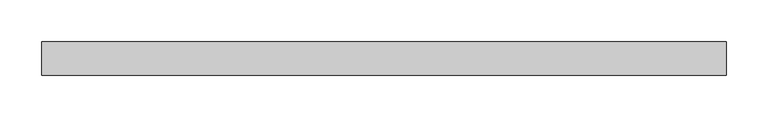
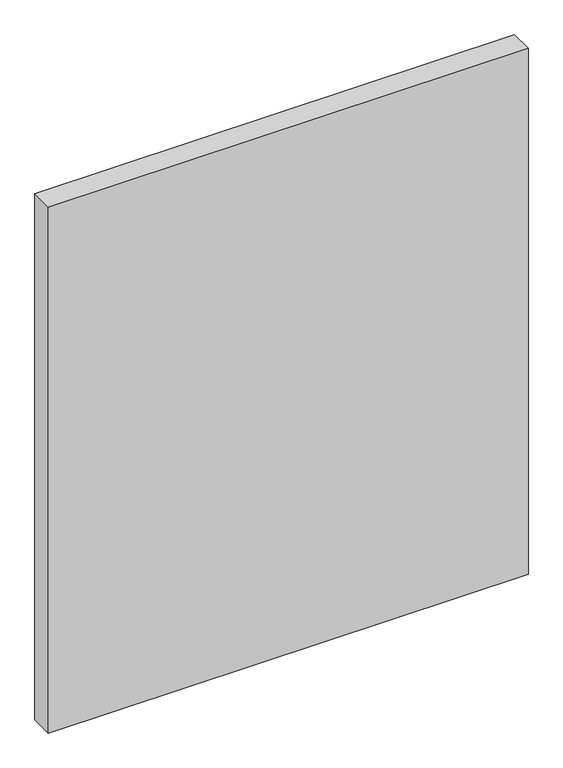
"""IFC4 building model written with IfcOpenShell, lengths in millimetres: plate geometry, Panneau système : Vitré."""

from ifc_helpers import new_model, si_unit, origin, origin_with_axes, place, context, project, spatial, polyline, outline, extrude, source, transform, mapped, element, save


def plate_ad1eae4f(model_context):
    return source(origin(), model_context, "Body", "SweptSolid", [
        extrude(outline(polyline([(410.2461392, 5.0), (-410.2461392, 5.0), (-410.2461392, 45.0), (410.2461392, 45.0), (410.2461392, 5.0)])), origin_with_axes(), (0.0, 0.0, 1.0), 950.0),
    ])


if __name__ == "__main__":
    model = new_model("IFC4")
    model_context = context("Model", 3, world=origin())
    ifc_project = project(units=[si_unit("LENGTHUNIT", "METRE", prefix="MILLI")], contexts=[model_context])
    site = spatial("IfcSite", under=ifc_project)
    building = spatial("IfcBuilding", under=site)
    placement = place(None, origin())
    plate_shape = plate_ad1eae4f(model_context)
    element("IfcPlate", 1, ObjectType="Panneau système : Vitré", at=placement, inside=building, context=model_context, shape_type="MappedRepresentation", body=[
        mapped(plate_shape, transform((0.0, 0.0, 0.0), x_axis=(1.0, 0.0, 0.0), y_axis=(0.0, 1.0, 0.0), z_axis=(0.0, 0.0, 1.0))),
    ])
    save(model, "model.ifc")
